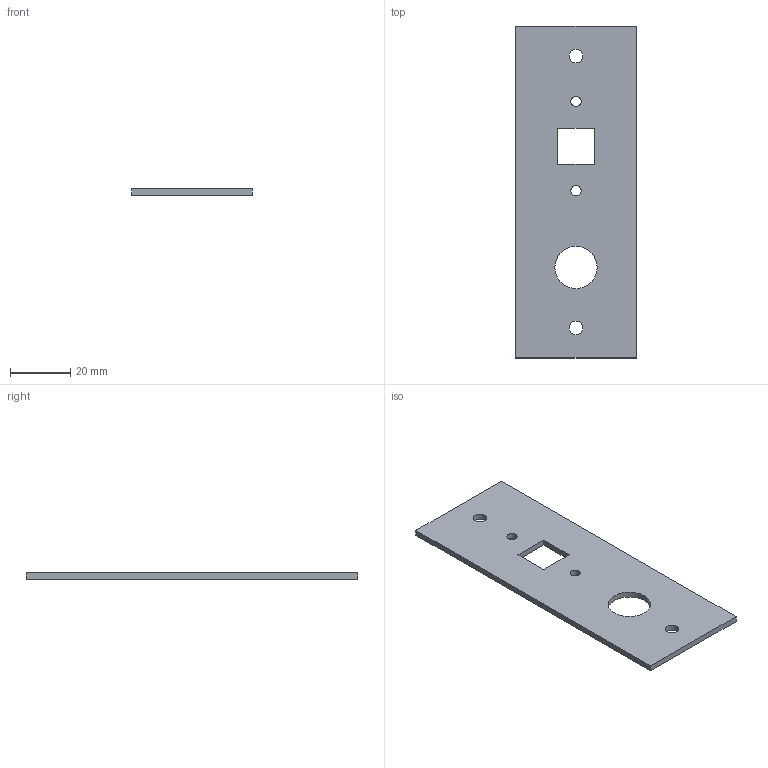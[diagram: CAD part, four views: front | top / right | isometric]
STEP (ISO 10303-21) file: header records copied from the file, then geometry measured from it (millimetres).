
FILE_DESCRIPTION (( 'STEP AP214' ), '1' );
FILE_NAME ('Back Plate.STEP', '2018-05-10T20:41:17', ( '' ), ( '' ), 'SwSTEP 2.0', 'SolidWorks 2015', '' );
FILE_SCHEMA (( 'AUTOMOTIVE_DESIGN' ));
Length unit declared in the file: millimetre
Products named in the file (1): Back Plate
Bounding box: 40 x 110 x 2 mm (x, y, z)
Volume: 8104.2 mm3; surface area: 8987.4 mm2
Topology: 1 solids, 1 shells, 20 faces, 54 edges, 36 vertices
Faces by surface type: cylinder 10, plane 10
Entity records: 696 total; most frequent: DIRECTION 116, CARTESIAN_POINT 111, ORIENTED_EDGE 108, EDGE_CURVE 54, AXIS2_PLACEMENT_3D 41, VERTEX_POINT 36, VECTOR 34, LINE 34
